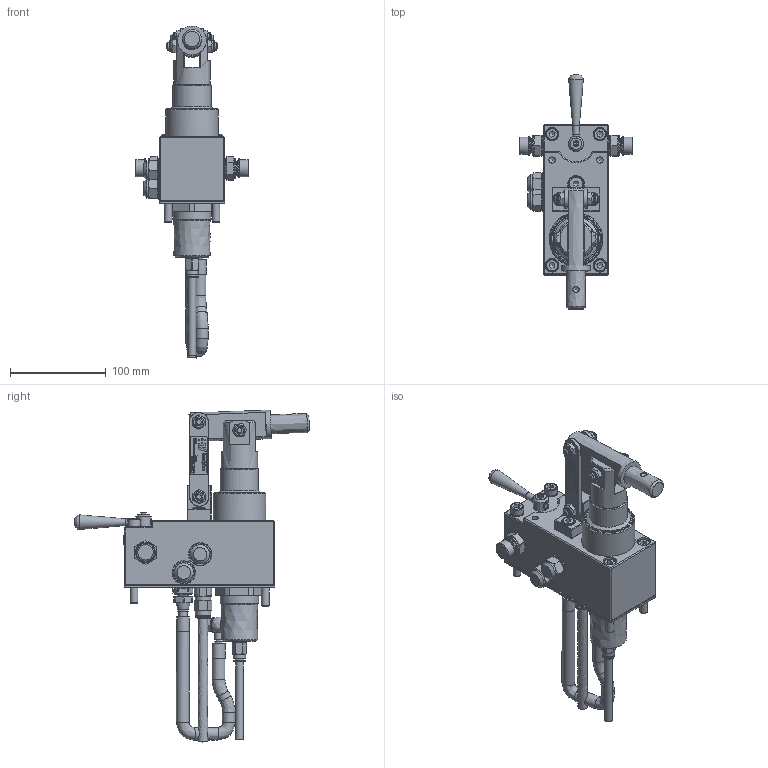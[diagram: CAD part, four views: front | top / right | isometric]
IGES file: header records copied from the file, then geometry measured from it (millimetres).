
Global section: file name: No Iges File Name specified; native system: Autodesk Inventor 2013; preprocessor: AutoDesk Inventor Iges Exporter R2013; author: christian.scardovi; date: 20240328.123608; units: millimetre
Bounding box: 119 x 245.06 x 346.63 mm (x, y, z)
Volume: 1053400.1 mm3; surface area: 177185.8 mm2
Topology: 1 solids, 1 shells, 1495 faces, 3699 edges, 2369 vertices
Faces by surface type: bspline 1495
